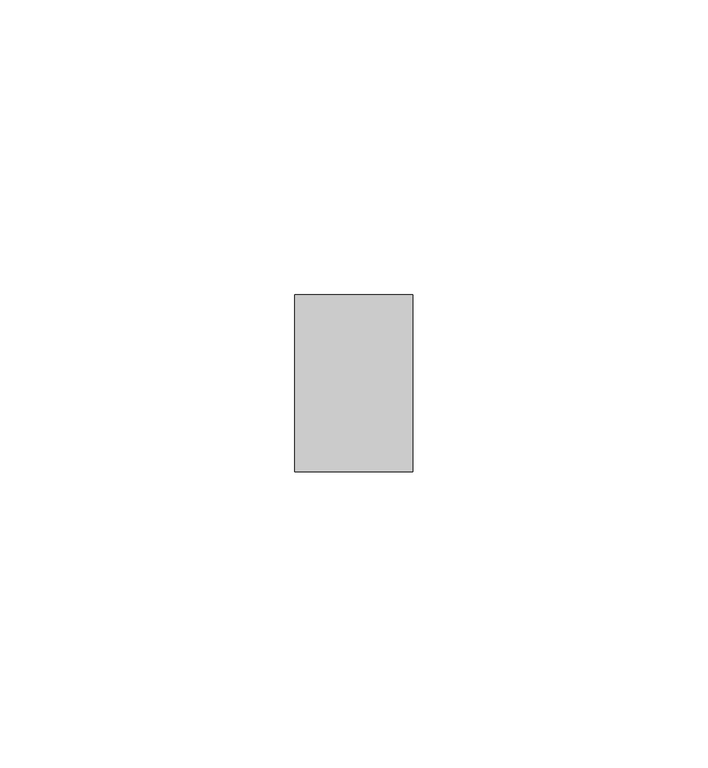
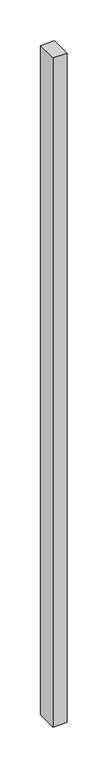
"""IFC4 building model written with IfcOpenShell, lengths in millimetres: member geometry, Прямоугольный импост : Квадрат 10 мм - Зазор между навесными плитами."""

from ifc_helpers import new_model, si_unit, frame, origin, place, context, project, spatial, polyline, outline, extrude, source, transform, mapped, element, save


def member_b19fbcb5(model_context):
    return source(origin(), model_context, "Body", "SweptSolid", [
        extrude(outline(polyline([(10.0, 15.0), (10.0, -15.0), (-10.0, -15.0), (-10.0, 15.0), (10.0, 15.0)])), frame((0.0, 0.0, -1000.6193333), z_axis=(0.0, 0.0, 1.0), x_axis=(1.0, 0.0, 0.0)), (0.0, 0.0, 1.0), 1000.6193333),
    ])


if __name__ == "__main__":
    model = new_model("IFC4")
    model_context = context("Model", 3, world=origin())
    ifc_project = project(units=[si_unit("LENGTHUNIT", "METRE", prefix="MILLI")], contexts=[model_context])
    site = spatial("IfcSite", under=ifc_project)
    building = spatial("IfcBuilding", under=site)
    placement = place(None, origin())
    member_shape = member_b19fbcb5(model_context)
    element("IfcMember", 1, ObjectType="Прямоугольный импост : Квадрат 10 мм - Зазор между навесными плитами", at=placement, inside=building, context=model_context, shape_type="MappedRepresentation", body=[
        mapped(member_shape, transform((0.0, 0.0, 0.0), x_axis=(1.0, 0.0, 0.0), y_axis=(0.0, 1.0, 0.0), z_axis=(0.0, 0.0, 1.0))),
    ])
    save(model, "model.ifc")
